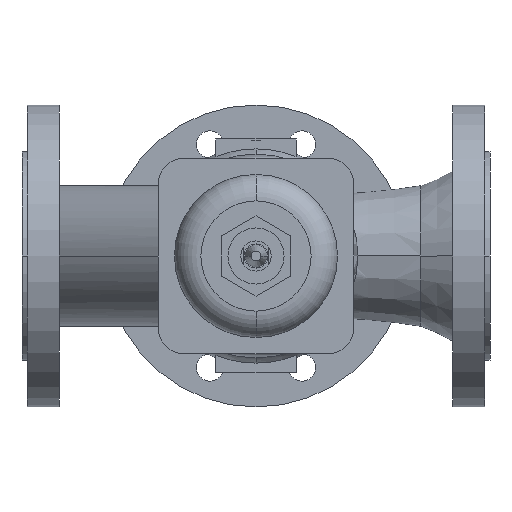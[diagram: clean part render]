
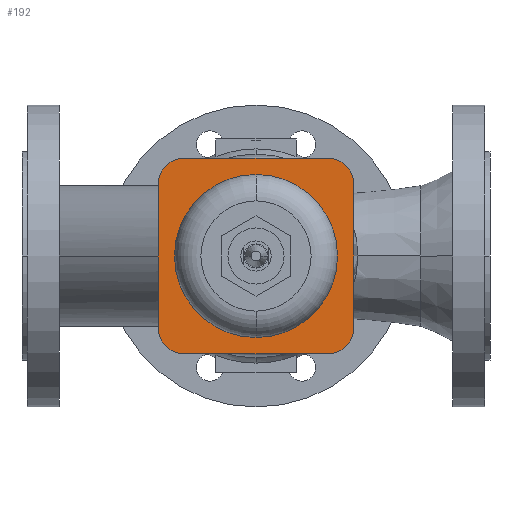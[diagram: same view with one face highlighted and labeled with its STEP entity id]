
A CAD part, front view. The second image highlights one B-rep face of the part: STEP entity #192.
In plain terms, the highlighted planar face has unit normal (0, -1, 0).
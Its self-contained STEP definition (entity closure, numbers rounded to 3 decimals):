
#192 = ADVANCED_FACE( '', ( #521, #522 ), #523, .T. );
#521 = FACE_OUTER_BOUND( '', #942, .T. );
#522 = FACE_BOUND( '', #943, .T. );
#523 = PLANE( '', #944 );
#942 = EDGE_LOOP( '', ( #2006, #2007, #2008, #2009, #2010, #2011, #2012, #2013 ) );
#943 = EDGE_LOOP( '', ( #2014, #2015 ) );
#944 = AXIS2_PLACEMENT_3D( '', #2016, #2017, #2018 );
#2006 = ORIENTED_EDGE( '', *, *, #2875, .T. );
#2007 = ORIENTED_EDGE( '', *, *, #2867, .T. );
#2008 = ORIENTED_EDGE( '', *, *, #2858, .T. );
#2009 = ORIENTED_EDGE( '', *, *, #2849, .T. );
#2010 = ORIENTED_EDGE( '', *, *, #2843, .T. );
#2011 = ORIENTED_EDGE( '', *, *, #2884, .T. );
#2012 = ORIENTED_EDGE( '', *, *, #2881, .T. );
#2013 = ORIENTED_EDGE( '', *, *, #2878, .T. );
#2014 = ORIENTED_EDGE( '', *, *, #2676, .F. );
#2015 = ORIENTED_EDGE( '', *, *, #2887, .F. );
#2016 = CARTESIAN_POINT( '', ( 85.25, -168.62, 0. ) );
#2017 = DIRECTION( '', ( 0., -1., 0. ) );
#2018 = DIRECTION( '', ( -1., 0., 0. ) );
#2676 = EDGE_CURVE( '', #3262, #3265, #3266, .T. );
#2843 = EDGE_CURVE( '', #3539, #3537, #3540, .T. );
#2849 = EDGE_CURVE( '', #3549, #3539, #3550, .T. );
#2858 = EDGE_CURVE( '', #3564, #3549, #3565, .T. );
#2867 = EDGE_CURVE( '', #3579, #3564, #3580, .T. );
#2875 = EDGE_CURVE( '', #3591, #3579, #3592, .T. );
#2878 = EDGE_CURVE( '', #3596, #3591, #3597, .T. );
#2881 = EDGE_CURVE( '', #3601, #3596, #3602, .T. );
#2884 = EDGE_CURVE( '', #3537, #3601, #3605, .T. );
#2887 = EDGE_CURVE( '', #3265, #3262, #3608, .T. );
#3262 = VERTEX_POINT( '', #4475 );
#3265 = VERTEX_POINT( '', #4479 );
#3266 = CIRCLE( '', #4480, 54. );
#3537 = VERTEX_POINT( '', #4823 );
#3539 = VERTEX_POINT( '', #4826 );
#3540 = LINE( '', #4827, #4828 );
#3549 = VERTEX_POINT( '', #4839 );
#3550 = CIRCLE( '', #4840, 17. );
#3564 = VERTEX_POINT( '', #4860 );
#3565 = LINE( '', #4861, #4862 );
#3579 = VERTEX_POINT( '', #4881 );
#3580 = CIRCLE( '', #4882, 17. );
#3591 = VERTEX_POINT( '', #4898 );
#3592 = LINE( '', #4899, #4900 );
#3596 = VERTEX_POINT( '', #4905 );
#3597 = CIRCLE( '', #4906, 17. );
#3601 = VERTEX_POINT( '', #4912 );
#3602 = LINE( '', #4913, #4914 );
#3605 = CIRCLE( '', #4918, 17. );
#3608 = CIRCLE( '', #4921, 54. );
#4475 = CARTESIAN_POINT( '', ( 101., -168.62, 0. ) );
#4479 = CARTESIAN_POINT( '', ( 209., -168.62, 0. ) );
#4480 = AXIS2_PLACEMENT_3D( '', #5571, #5572, #5573 );
#4823 = CARTESIAN_POINT( '', ( 219.73, -168.62, 47.73 ) );
#4826 = CARTESIAN_POINT( '', ( 219.73, -168.62, -47.73 ) );
#4827 = CARTESIAN_POINT( '', ( 219.73, -168.62, 23.865 ) );
#4828 = VECTOR( '', #5926, 1. );
#4839 = CARTESIAN_POINT( '', ( 202.73, -168.62, -64.73 ) );
#4840 = AXIS2_PLACEMENT_3D( '', #5938, #5939, #5940 );
#4860 = CARTESIAN_POINT( '', ( 107.27, -168.62, -64.73 ) );
#4861 = CARTESIAN_POINT( '', ( 120.125, -168.62, -64.73 ) );
#4862 = VECTOR( '', #5953, 1. );
#4881 = CARTESIAN_POINT( '', ( 90.27, -168.62, -47.73 ) );
#4882 = AXIS2_PLACEMENT_3D( '', #5968, #5969, #5970 );
#4898 = CARTESIAN_POINT( '', ( 90.27, -168.62, 47.73 ) );
#4899 = CARTESIAN_POINT( '', ( 90.27, -168.62, -23.865 ) );
#4900 = VECTOR( '', #5982, 1. );
#4905 = CARTESIAN_POINT( '', ( 107.27, -168.62, 64.73 ) );
#4906 = AXIS2_PLACEMENT_3D( '', #5987, #5988, #5989 );
#4912 = CARTESIAN_POINT( '', ( 202.73, -168.62, 64.73 ) );
#4913 = CARTESIAN_POINT( '', ( 96.26, -168.62, 64.73 ) );
#4914 = VECTOR( '', #5992, 1. );
#4918 = AXIS2_PLACEMENT_3D( '', #5997, #5998, #5999 );
#4921 = AXIS2_PLACEMENT_3D( '', #6006, #6007, #6008 );
#5571 = CARTESIAN_POINT( '', ( 155., -168.62, 0. ) );
#5572 = DIRECTION( '', ( 0., -1., 0. ) );
#5573 = DIRECTION( '', ( -1., 0., 0. ) );
#5926 = DIRECTION( '', ( 0., 0., 1. ) );
#5938 = CARTESIAN_POINT( '', ( 202.73, -168.62, -47.73 ) );
#5939 = DIRECTION( '', ( 0., -1., 0. ) );
#5940 = DIRECTION( '', ( 1., 0., 0. ) );
#5953 = DIRECTION( '', ( 1., 0., 0. ) );
#5968 = CARTESIAN_POINT( '', ( 107.27, -168.62, -47.73 ) );
#5969 = DIRECTION( '', ( 0., -1., 0. ) );
#5970 = DIRECTION( '', ( 0., 0., -1. ) );
#5982 = DIRECTION( '', ( 0., 0., -1. ) );
#5987 = CARTESIAN_POINT( '', ( 107.27, -168.62, 47.73 ) );
#5988 = DIRECTION( '', ( 0., -1., 0. ) );
#5989 = DIRECTION( '', ( -1., 0., 0. ) );
#5992 = DIRECTION( '', ( -1., 0., 0. ) );
#5997 = CARTESIAN_POINT( '', ( 202.73, -168.62, 47.73 ) );
#5998 = DIRECTION( '', ( 0., -1., 0. ) );
#5999 = DIRECTION( '', ( 0., 0., 1. ) );
#6006 = CARTESIAN_POINT( '', ( 155., -168.62, 0. ) );
#6007 = DIRECTION( '', ( 0., -1., 0. ) );
#6008 = DIRECTION( '', ( -1., 0., 0. ) );
